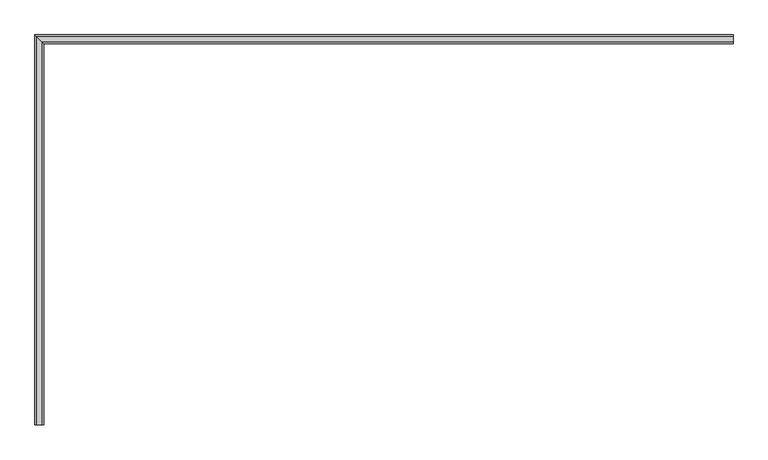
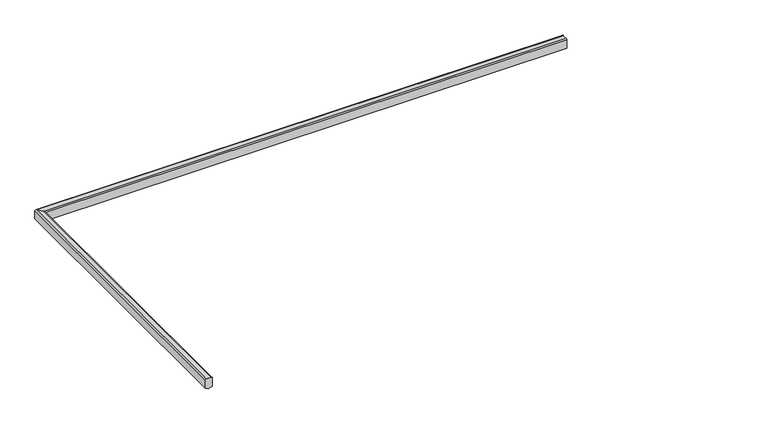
"""IFC4 building model written with IfcOpenShell, lengths in millimetres: railing geometry, Hedge 750mm High."""

from ifc_helpers import new_model, si_unit, frame, origin, place, context, project, spatial, circle_curve, ellipse_curve, source, transform, mapped, element, save
from ifc_brep_helpers import plane_surface, cylinder_surface, advanced_brep


def railing_0471145e(model_context):
    return source(origin(), model_context, "Body", "AdvancedBrep", [
        advanced_brep(
        [(-55230.3056755, 8520.8382321, 3550.0), (-55230.3056755, 8220.8382321, 3550.0), (-55230.3056755, 8145.8382321, 3475.0), (-55230.3056755, 8145.8382321, 2900.0), (-55230.3056755, 8325.8382321, 2800.0), (-55230.3056755, 8415.8382321, 2800.0), (-55230.3056755, 8595.8382321, 2900.0), (-55230.3056755, 8595.8382321, 3475.0), (-89819.5056249, 8145.8382321, 3475.0), (-89819.5056249, 8145.8382321, 2900.0), (-90194.5056249, 8520.8382321, 3550.0), (-89894.5056249, 8220.8382321, 3550.0), (-90194.5056249, -11005.9199596, 3550.0), (-90269.5056249, -11005.9199596, 3475.0), (-90269.5056249, -11005.9199596, 2900.0), (-90089.5056249, -11005.9199596, 2800.0), (-89999.5056249, -11005.9199596, 2800.0), (-89819.5056249, -11005.9199596, 2900.0), (-89819.5056249, -11005.9199596, 3475.0), (-89894.5056249, -11005.9199596, 3550.0), (-89999.5056249, 8325.8382321, 2800.0), (-90089.5056249, 8415.8382321, 2800.0), (-90269.5056249, 8595.8382321, 2900.0), (-90269.5056249, 8595.8382321, 3475.0)],
        [
            (0, 1),
            (1, 2, circle_curve(frame((-55230.3056755, 8220.8382321, 3475.0), z_axis=(1.0, 0.0, 0.0), x_axis=(0.0, 1.0, 0.0)), 75.0)),
            (2, 3),
            (3, 4),
            (4, 5),
            (5, 6),
            (6, 7),
            (7, 0, circle_curve(frame((-55230.3056755, 8520.8382321, 3475.0), z_axis=(1.0, 0.0, 0.0), x_axis=(0.0, 1.0, 0.0)), 75.0)),
            (2, 8),
            (8, 9),
            (9, 3),
            (0, 10),
            (10, 11),
            (11, 1),
            (12, 13, circle_curve(frame((-90194.5056249, -11005.9199596, 3475.0), z_axis=(0.0, -1.0, 0.0), x_axis=(-1.0, 0.0, 0.0)), 75.0)),
            (13, 14),
            (14, 15),
            (15, 16),
            (16, 17),
            (17, 18),
            (18, 19, circle_curve(frame((-89894.5056249, -11005.9199596, 3475.0), z_axis=(0.0, -1.0, 0.0), x_axis=(-1.0, 0.0, 0.0)), 75.0)),
            (19, 12),
            (8, 18),
            (17, 9),
            (10, 12),
            (19, 11),
            (11, 8, ellipse_curve(frame((-89894.5056249, 8220.8382321, 3475.0), z_axis=(0.7071067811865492, 0.7071067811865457, 0.0), x_axis=(0.7071067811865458, -0.7071067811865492, 0.0)), 106.0660172, 75.0)),
            (9, 20),
            (20, 4),
            (20, 21),
            (21, 5),
            (21, 22),
            (22, 6),
            (22, 23),
            (23, 7),
            (23, 10, ellipse_curve(frame((-90194.5056249, 8520.8382321, 3475.0), z_axis=(0.7071067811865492, 0.7071067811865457, 0.0), x_axis=(0.7071067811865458, -0.7071067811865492, 0.0)), 106.0660172, 75.0)),
            (16, 20),
            (15, 21),
            (14, 22),
            (13, 23),
        ],
        [
            plane_surface(frame((-55230.3056755, 8378.5855015, 3550.0), z_axis=(1.0, 0.0, 0.0), x_axis=(0.0, -1.0, 0.0))),
            plane_surface(frame((-55230.3056755, 8145.8382321, 3475.0), z_axis=(0.0, -1.0, 0.0), x_axis=(-1.0, 0.0, 0.0))),
            plane_surface(frame((-55230.3056755, 8520.8382321, 3550.0), z_axis=(0.0, 0.0, 1.0), x_axis=(-1.0, 0.0, 0.0))),
            plane_surface(frame((-90052.2528943, -11005.9199596, 3550.0), z_axis=(0.0, -1.0, 0.0), x_axis=(0.0, 0.0, -1.0))),
            plane_surface(frame((-89819.5056249, 8145.8382321, 3475.0), z_axis=(1.0, 0.0, 0.0), x_axis=(0.0, -1.0, 0.0))),
            plane_surface(frame((-90194.5056249, 8520.8382321, 3550.0), z_axis=(0.0, 0.0, 1.0), x_axis=(0.0, -1.0, 0.0))),
            cylinder_surface(frame((-55230.3056755, 8220.8382321, 3475.0), z_axis=(1.0, 0.0, 0.0), x_axis=(0.0, 1.0, 0.0)), 75.0),
            plane_surface(frame((-55230.3056755, 8145.8382321, 2900.0), z_axis=(0.0, -0.4856429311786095, -0.8741572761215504), x_axis=(-1.0, 0.0, 0.0))),
            plane_surface(frame((-55230.3056755, 8325.8382321, 2800.0), z_axis=(0.0, 0.0, -1.0), x_axis=(-1.0, 0.0, 0.0))),
            plane_surface(frame((-55230.3056755, 8415.8382321, 2800.0), z_axis=(0.0, 0.48564293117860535, -0.8741572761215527), x_axis=(-1.0, 0.0, 0.0))),
            plane_surface(frame((-55230.3056755, 8595.8382321, 2900.0), z_axis=(0.0, 1.0, 0.0), x_axis=(-1.0, 0.0, 0.0))),
            cylinder_surface(frame((-55230.3056755, 8520.8382321, 3475.0), z_axis=(1.0, 0.0, 0.0), x_axis=(0.0, 1.0, 0.0)), 75.0),
            cylinder_surface(frame((-89894.5056249, 8378.5855015, 3475.0), z_axis=(0.0, 1.0, 0.0), x_axis=(-1.0, 0.0, 0.0)), 75.0),
            plane_surface(frame((-89819.5056249, 8145.8382321, 2900.0), z_axis=(0.4856429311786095, 0.0, -0.8741572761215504), x_axis=(0.0, -1.0, 0.0))),
            plane_surface(frame((-89999.5056249, 8325.8382321, 2800.0), z_axis=(0.0, 0.0, -1.0), x_axis=(0.0, -1.0, 0.0))),
            plane_surface(frame((-90089.5056249, 8415.8382321, 2800.0), z_axis=(-0.48564293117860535, 0.0, -0.8741572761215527), x_axis=(0.0, -1.0, 0.0))),
            plane_surface(frame((-90269.5056249, 8595.8382321, 2900.0), z_axis=(-1.0, 0.0, 0.0), x_axis=(0.0, -1.0, 0.0))),
            cylinder_surface(frame((-90194.5056249, 8378.5855015, 3475.0), z_axis=(0.0, 1.0, 0.0), x_axis=(-1.0, 0.0, 0.0)), 75.0),
        ],
        [
            (0, [[1, 2, 3, 4, 5, 6, 7, 8]]),
            (1, [[-3, 9, 10, 11]]),
            (2, [[-1, 12, 13, 14]]),
            (3, [[15, 16, 17, 18, 19, 20, 21, 22]]),
            (4, [[-10, 23, -20, 24]]),
            (5, [[-13, 25, -22, 26]]),
            (6, [[-2, -14, 27, -9]]),
            (7, [[-4, -11, 28, 29]]),
            (8, [[-5, -29, 30, 31]]),
            (9, [[-6, -31, 32, 33]]),
            (10, [[-7, -33, 34, 35]]),
            (11, [[-8, -35, 36, -12]]),
            (12, [[-27, -26, -21, -23]]),
            (13, [[-28, -24, -19, 37]]),
            (14, [[-30, -37, -18, 38]]),
            (15, [[-32, -38, -17, 39]]),
            (16, [[-34, -39, -16, 40]]),
            (17, [[-36, -40, -15, -25]]),
        ],
    ),
    ])


if __name__ == "__main__":
    model = new_model("IFC4")
    model_context = context("Model", 3, world=origin())
    ifc_project = project(units=[si_unit("LENGTHUNIT", "METRE", prefix="MILLI")], contexts=[model_context])
    site = spatial("IfcSite", under=ifc_project)
    building = spatial("IfcBuilding", under=site)
    placement = place(None, origin())
    railing_shape = railing_0471145e(model_context)
    element("IfcRailing", 1, ObjectType="Hedge 750mm High", at=placement, inside=building, context=model_context, shape_type="MappedRepresentation", body=[
        mapped(railing_shape, transform((0.0, 0.0, 0.0), x_axis=(1.0, 0.0, 0.0), y_axis=(0.0, 1.0, 0.0), z_axis=(0.0, 0.0, 1.0))),
    ])
    save(model, "model.ifc")
